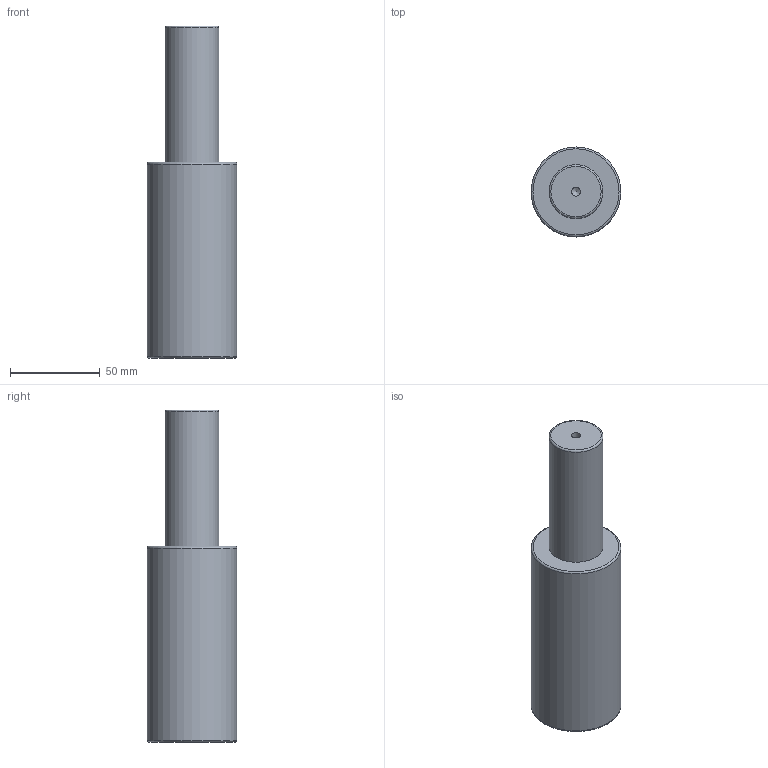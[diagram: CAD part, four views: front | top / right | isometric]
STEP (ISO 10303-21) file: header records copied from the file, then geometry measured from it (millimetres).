
FILE_DESCRIPTION(/* description */ (''),/* implementation_level */ '2;1');
FILE_NAME(/* name */ 'NV5-SMLX.50x75.stp',/* time_stamp */ '2018-08-31T16:08:32+02:00',/* author */ (''),/* organization */ (''),/* preprocessor_version */ 'ST-DEVELOPER v16',/* originating_system */ 'SIEMENS PLM Software NX 10.0',/* authorisation */ '');
FILE_SCHEMA (('AUTOMOTIVE_DESIGN { 1 0 10303 214 3 1 1 1 }'));
Length unit declared in the file: millimetre
Products named in the file (1): NV5-SMLX.50x75
Bounding box: 50 x 50 x 185 mm (x, y, z)
Volume: 266416.7 mm3; surface area: 28674.4 mm2
Topology: 1 solids, 1 shells, 12 faces, 24 edges, 15 vertices
Faces by surface type: cylinder 4, torus 3, plane 3, cone 2
Full cylindrical faces by diameter (mm): 5 x1, 8.5 x1, 30 x1, 50 x1
Entity records: 266 total; most frequent: DIRECTION 48, CARTESIAN_POINT 37, FACE_BOUND 24, AXIS2_PLACEMENT_3D 24, EDGE_LOOP 22, ORIENTED_EDGE 22, VERTEX_POINT 13, ADVANCED_FACE 12
